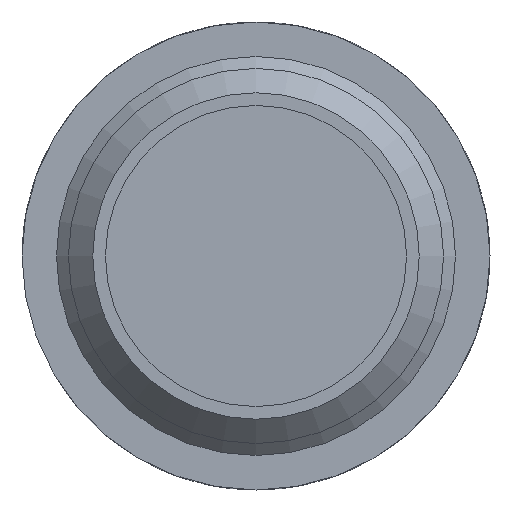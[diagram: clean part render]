
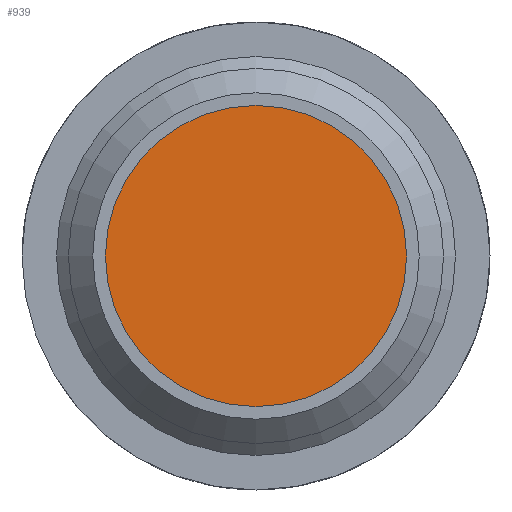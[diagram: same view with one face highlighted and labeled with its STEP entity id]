
A CAD part, left-side view. The second image highlights one B-rep face of the part: STEP entity #939.
In plain terms, the highlighted planar face has unit normal (-1, 0, 0).
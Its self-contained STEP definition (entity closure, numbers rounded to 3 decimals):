
#120=PLANE($,#1072);
#193=FACE_OUTER_BOUND($,#260,.T.);
#260=EDGE_LOOP($,(#731));
#344=CIRCLE($,#1073,55.);
#433=VERTEX_POINT($,#1904);
#558=EDGE_CURVE($,#433,#433,#344,.T.);
#731=ORIENTED_EDGE($,*,*,#558,.F.);
#939=ADVANCED_FACE($,(#193),#120,.T.);
#1072=AXIS2_PLACEMENT_3D($,#1903,#1355,#1356);
#1073=AXIS2_PLACEMENT_3D($,#1905,#1357,#1358);
#1355=DIRECTION('center_axis',(-1.,0.,0.));
#1356=DIRECTION('ref_axis',(0.,0.,1.));
#1357=DIRECTION('center_axis',(1.,0.,0.));
#1358=DIRECTION('ref_axis',(0.,1.,0.));
#1903=CARTESIAN_POINT('Origin',(-6.,27.5,0.));
#1904=CARTESIAN_POINT('',(-6.,55.,0.));
#1905=CARTESIAN_POINT('Origin',(-6.,0.,0.));
